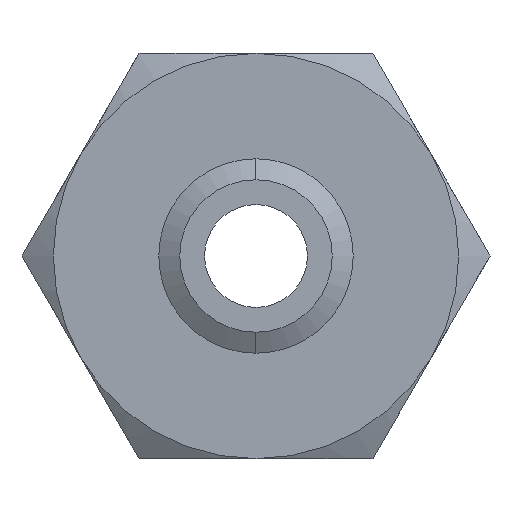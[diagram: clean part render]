
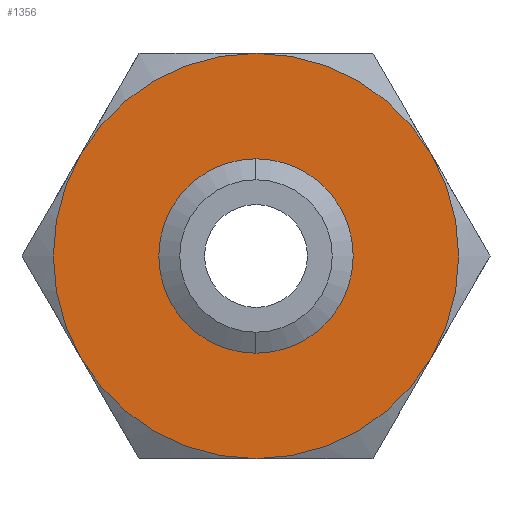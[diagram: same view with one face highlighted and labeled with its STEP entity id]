
A CAD part, front view. The second image highlights one B-rep face of the part: STEP entity #1356.
In plain terms, the highlighted planar face has unit normal (0, -1, 0).
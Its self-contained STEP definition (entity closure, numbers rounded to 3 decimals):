
#142 = CARTESIAN_POINT ( 'NONE',  ( -21.651, 0., 12.5 ) ) ;
#219 = DIRECTION ( 'NONE',  ( 0., 0., 1. ) ) ;
#220 = DIRECTION ( 'NONE',  ( 0., 1., 0. ) ) ;
#221 = CARTESIAN_POINT ( 'NONE',  ( 0., 0., 0. ) ) ;
#222 = AXIS2_PLACEMENT_3D ( 'NONE', #221, #220, #219 ) ;
#223 = CIRCLE ( 'NONE', #222, 25. ) ;
#225 = CARTESIAN_POINT ( 'NONE',  ( 21.651, 0., 12.5 ) ) ;
#226 = CARTESIAN_POINT ( 'NONE',  ( 0., 0., 25. ) ) ;
#227 = DIRECTION ( 'NONE',  ( 0., 0., 1. ) ) ;
#228 = DIRECTION ( 'NONE',  ( 0., 1., 0. ) ) ;
#229 = CARTESIAN_POINT ( 'NONE',  ( 0., 0., 0. ) ) ;
#230 = AXIS2_PLACEMENT_3D ( 'NONE', #229, #228, #227 ) ;
#231 = DIRECTION ( 'NONE',  ( 0., 0., 1. ) ) ;
#232 = DIRECTION ( 'NONE',  ( 0., 1., 0. ) ) ;
#233 = CIRCLE ( 'NONE', #230, 25. ) ;
#234 = CARTESIAN_POINT ( 'NONE',  ( 14.434, 0., -25. ) ) ;
#235 = AXIS2_PLACEMENT_3D ( 'NONE', #234, #232, #231 ) ;
#236 = PLANE ( 'NONE',  #235 ) ;
#237 = FACE_BOUND ( 'NONE', #1463, .T. ) ;
#238 = FACE_OUTER_BOUND ( 'NONE', #1357, .T. ) ;
#370 = CIRCLE ( 'NONE', #431, 25. ) ;
#399 = DIRECTION ( 'NONE',  ( 0., 0., 1. ) ) ;
#400 = DIRECTION ( 'NONE',  ( 0., 1., 0. ) ) ;
#401 = CARTESIAN_POINT ( 'NONE',  ( 0., 0., 0. ) ) ;
#402 = AXIS2_PLACEMENT_3D ( 'NONE', #401, #400, #399 ) ;
#403 = CIRCLE ( 'NONE', #402, 25. ) ;
#404 = CARTESIAN_POINT ( 'NONE',  ( 0., 0., -25. ) ) ;
#405 = DIRECTION ( 'NONE',  ( 0., 0., 1. ) ) ;
#406 = DIRECTION ( 'NONE',  ( 0., 1., 0. ) ) ;
#407 = CARTESIAN_POINT ( 'NONE',  ( 0., 0., 0. ) ) ;
#408 = AXIS2_PLACEMENT_3D ( 'NONE', #407, #406, #405 ) ;
#409 = CIRCLE ( 'NONE', #408, 25. ) ;
#410 = CARTESIAN_POINT ( 'NONE',  ( -21.651, 0., -12.5 ) ) ;
#411 = CARTESIAN_POINT ( 'NONE',  ( 21.651, 0., -12.5 ) ) ;
#424 = DIRECTION ( 'NONE',  ( 0., 0., -1. ) ) ;
#425 = DIRECTION ( 'NONE',  ( 0., -1., 0. ) ) ;
#426 = AXIS2_PLACEMENT_3D ( 'NONE', #432, #425, #424 ) ;
#427 = CIRCLE ( 'NONE', #426, 9.402 ) ;
#428 = DIRECTION ( 'NONE',  ( 0., 0., 1. ) ) ;
#429 = DIRECTION ( 'NONE',  ( 0., 1., 0. ) ) ;
#430 = CARTESIAN_POINT ( 'NONE',  ( 0., 0., 0. ) ) ;
#431 = AXIS2_PLACEMENT_3D ( 'NONE', #430, #429, #428 ) ;
#432 = CARTESIAN_POINT ( 'NONE',  ( 0., 0., 0. ) ) ;
#459 = DIRECTION ( 'NONE',  ( 0., 0., 1. ) ) ;
#460 = DIRECTION ( 'NONE',  ( 0., 1., 0. ) ) ;
#461 = CARTESIAN_POINT ( 'NONE',  ( 0., 0., 0. ) ) ;
#462 = AXIS2_PLACEMENT_3D ( 'NONE', #461, #460, #459 ) ;
#463 = CIRCLE ( 'NONE', #462, 25. ) ;
#967 = DIRECTION ( 'NONE',  ( 0., 0., -1. ) ) ;
#968 = DIRECTION ( 'NONE',  ( 0., -1., 0. ) ) ;
#969 = CARTESIAN_POINT ( 'NONE',  ( 0., 0., 0. ) ) ;
#970 = AXIS2_PLACEMENT_3D ( 'NONE', #969, #968, #967 ) ;
#976 = CIRCLE ( 'NONE', #970, 9.402 ) ;
#1023 = CARTESIAN_POINT ( 'NONE',  ( 0., 0., 9.402 ) ) ;
#1024 = CARTESIAN_POINT ( 'NONE',  ( 0., 0., -9.402 ) ) ;
#1306 = VERTEX_POINT ( 'NONE', #142 ) ;
#1356 = ADVANCED_FACE ( 'NONE', ( #238, #237 ), #236, .F. ) ;
#1357 = EDGE_LOOP ( 'NONE', ( #1358, #1362, #1447, #1448, #1466, #1462 ) ) ;
#1358 = ORIENTED_EDGE ( 'NONE', *, *, #1359, .F. ) ;
#1359 = EDGE_CURVE ( 'NONE', #1360, #1361, #233, .T. ) ;
#1360 = VERTEX_POINT ( 'NONE', #226 ) ;
#1361 = VERTEX_POINT ( 'NONE', #225 ) ;
#1362 = ORIENTED_EDGE ( 'NONE', *, *, #1363, .F. ) ;
#1363 = EDGE_CURVE ( 'NONE', #1306, #1360, #223, .T. ) ;
#1447 = ORIENTED_EDGE ( 'NONE', *, *, #1467, .F. ) ;
#1448 = ORIENTED_EDGE ( 'NONE', *, *, #1461, .F. ) ;
#1449 = EDGE_CURVE ( 'NONE', #1361, #1459, #370, .T. ) ;
#1450 = ORIENTED_EDGE ( 'NONE', *, *, #1971, .F. ) ;
#1451 = ORIENTED_EDGE ( 'NONE', *, *, #1452, .F. ) ;
#1452 = EDGE_CURVE ( 'NONE', #1977, #1975, #427, .T. ) ;
#1459 = VERTEX_POINT ( 'NONE', #411 ) ;
#1460 = VERTEX_POINT ( 'NONE', #410 ) ;
#1461 = EDGE_CURVE ( 'NONE', #1464, #1460, #409, .T. ) ;
#1462 = ORIENTED_EDGE ( 'NONE', *, *, #1449, .F. ) ;
#1463 = EDGE_LOOP ( 'NONE', ( #1450, #1451 ) ) ;
#1464 = VERTEX_POINT ( 'NONE', #404 ) ;
#1465 = EDGE_CURVE ( 'NONE', #1459, #1464, #403, .T. ) ;
#1466 = ORIENTED_EDGE ( 'NONE', *, *, #1465, .F. ) ;
#1467 = EDGE_CURVE ( 'NONE', #1460, #1306, #463, .T. ) ;
#1971 = EDGE_CURVE ( 'NONE', #1975, #1977, #976, .T. ) ;
#1975 = VERTEX_POINT ( 'NONE', #1024 ) ;
#1977 = VERTEX_POINT ( 'NONE', #1023 ) ;
